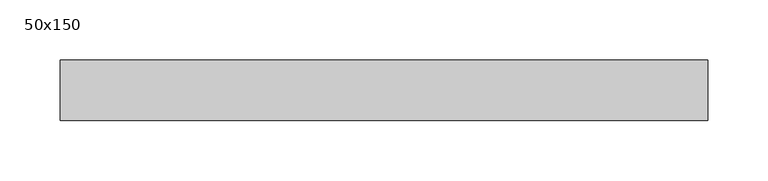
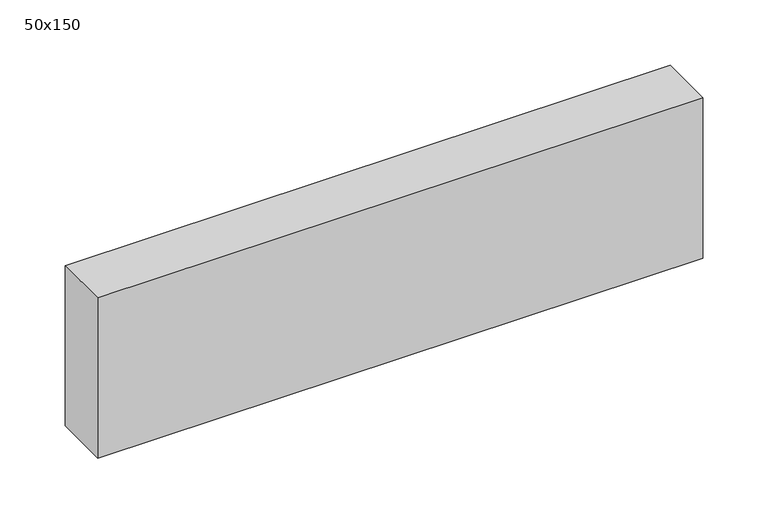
"""IFC4 building model written with IfcOpenShell, lengths in millimetres: beam geometry, Graded Timber : 50x150."""

from ifc_helpers import new_model, si_unit, frame, origin, place, context, project, spatial, polyline, outline, extrude, source, transform, mapped, element, save


def beam_50x150_4be821b0(model_context):
    return source(origin(), model_context, "Body", "SweptSolid", [
        extrude(outline(polyline([(267.5, 25.0), (267.5, -25.0), (-267.5, -25.0), (-267.5, 25.0), (267.5, 25.0)])), frame((0.0, 0.0, -75.0), z_axis=(0.0, 0.0, 1.0), x_axis=(1.0, 0.0, 0.0)), (0.0, 0.0, 1.0), 150.0),
    ])


if __name__ == "__main__":
    model = new_model("IFC4")
    model_context = context("Model", 3, world=origin())
    ifc_project = project(units=[si_unit("LENGTHUNIT", "METRE", prefix="MILLI")], contexts=[model_context])
    site = spatial("IfcSite", under=ifc_project)
    building = spatial("IfcBuilding", under=site)
    placement = place(None, origin())
    beam_50x150_shape = beam_50x150_4be821b0(model_context)
    element("IfcBeam", 1, ObjectType="Graded Timber : 50x150", at=placement, inside=building, context=model_context, shape_type="MappedRepresentation", body=[
        mapped(beam_50x150_shape, transform((0.0, 0.0, 0.0), x_axis=(1.0, 0.0, 0.0), y_axis=(0.0, 1.0, 0.0), z_axis=(0.0, 0.0, 1.0))),
    ])
    save(model, "model.ifc")
